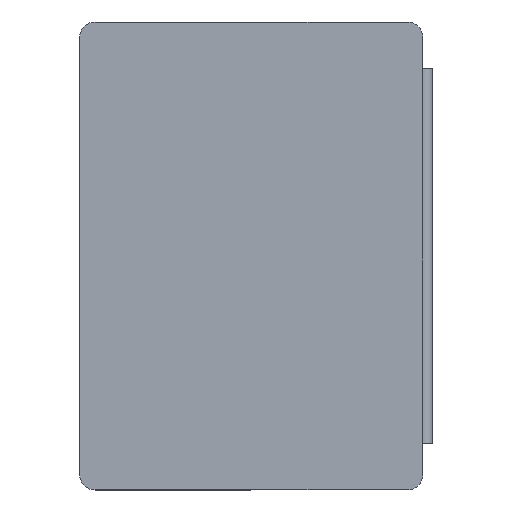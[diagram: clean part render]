
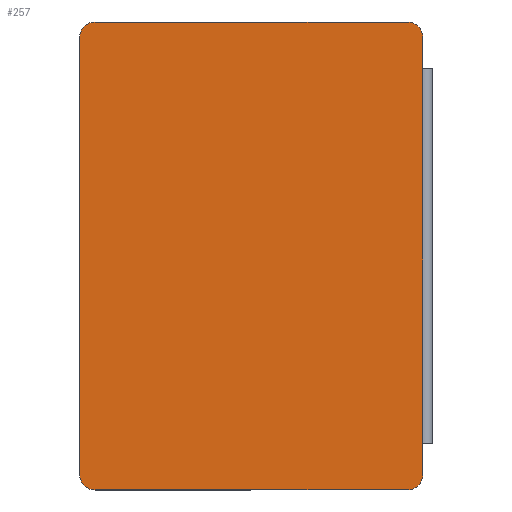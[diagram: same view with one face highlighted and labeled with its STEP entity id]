
A CAD part, top view. The second image highlights one B-rep face of the part: STEP entity #257.
In plain terms, the highlighted planar face has unit normal (0, 0, 1).
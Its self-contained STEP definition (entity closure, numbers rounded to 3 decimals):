
#24 = VECTOR ( 'NONE', #495, 1000. ) ;
#53 = CIRCLE ( 'NONE', #703, 5. ) ;
#54 = VERTEX_POINT ( 'NONE', #1642 ) ;
#94 = AXIS2_PLACEMENT_3D ( 'NONE', #881, #866, #1126 ) ;
#129 = CARTESIAN_POINT ( 'NONE',  ( 0., 0., 118.5 ) ) ;
#134 = ORIENTED_EDGE ( 'NONE', *, *, #183, .T. ) ;
#167 = VERTEX_POINT ( 'NONE', #318 ) ;
#183 = EDGE_CURVE ( 'NONE', #1404, #1384, #432, .T. ) ;
#222 = VECTOR ( 'NONE', #1247, 1000. ) ;
#257 = ADVANCED_FACE ( 'NONE', ( #1521 ), #1254, .F. ) ;
#261 = LINE ( 'NONE', #1369, #222 ) ;
#272 = CARTESIAN_POINT ( 'NONE',  ( 110., 130., 118.5 ) ) ;
#290 = DIRECTION ( 'NONE',  ( -1., 0., 0. ) ) ;
#293 = EDGE_CURVE ( 'NONE', #670, #603, #261, .T. ) ;
#307 = ORIENTED_EDGE ( 'NONE', *, *, #1177, .T. ) ;
#317 = ORIENTED_EDGE ( 'NONE', *, *, #293, .F. ) ;
#318 = CARTESIAN_POINT ( 'NONE',  ( 110., 120., 118.5 ) ) ;
#415 = CARTESIAN_POINT ( 'NONE',  ( 105., -15., 118.5 ) ) ;
#421 = AXIS2_PLACEMENT_3D ( 'NONE', #1618, #496, #888 ) ;
#432 = LINE ( 'NONE', #1638, #24 ) ;
#446 = VERTEX_POINT ( 'NONE', #415 ) ;
#461 = ORIENTED_EDGE ( 'NONE', *, *, #1489, .T. ) ;
#479 = ORIENTED_EDGE ( 'NONE', *, *, #815, .T. ) ;
#495 = DIRECTION ( 'NONE',  ( 0., -1., 0. ) ) ;
#496 = DIRECTION ( 'NONE',  ( 0., 0., 1. ) ) ;
#537 = AXIS2_PLACEMENT_3D ( 'NONE', #129, #749, #652 ) ;
#545 = DIRECTION ( 'NONE',  ( -1., 0., 0. ) ) ;
#551 = VECTOR ( 'NONE', #631, 1000. ) ;
#568 = ORIENTED_EDGE ( 'NONE', *, *, #1639, .T. ) ;
#593 = EDGE_CURVE ( 'NONE', #1634, #167, #715, .T. ) ;
#603 = VERTEX_POINT ( 'NONE', #1245 ) ;
#631 = DIRECTION ( 'NONE',  ( 1., 0., 0. ) ) ;
#650 = VECTOR ( 'NONE', #1446, 1000. ) ;
#652 = DIRECTION ( 'NONE',  ( -1., 0., 0. ) ) ;
#660 = ORIENTED_EDGE ( 'NONE', *, *, #1362, .T. ) ;
#668 = DIRECTION ( 'NONE',  ( 0., 0., 1. ) ) ;
#670 = VERTEX_POINT ( 'NONE', #1520 ) ;
#703 = AXIS2_PLACEMENT_3D ( 'NONE', #1022, #1528, #545 ) ;
#710 = ORIENTED_EDGE ( 'NONE', *, *, #1468, .T. ) ;
#715 = LINE ( 'NONE', #1108, #650 ) ;
#749 = DIRECTION ( 'NONE',  ( 0., 0., -1. ) ) ;
#781 = LINE ( 'NONE', #788, #892 ) ;
#787 = ORIENTED_EDGE ( 'NONE', *, *, #593, .F. ) ;
#788 = CARTESIAN_POINT ( 'NONE',  ( 110., 120., 118.5 ) ) ;
#815 = EDGE_CURVE ( 'NONE', #1384, #1594, #53, .T. ) ;
#853 = CARTESIAN_POINT ( 'NONE',  ( 105., 135., 118.5 ) ) ;
#866 = DIRECTION ( 'NONE',  ( 0., 0., 1. ) ) ;
#881 = CARTESIAN_POINT ( 'NONE',  ( 5., 130., 118.5 ) ) ;
#888 = DIRECTION ( 'NONE',  ( -1., 0., 0. ) ) ;
#892 = VECTOR ( 'NONE', #1300, 1000. ) ;
#959 = CARTESIAN_POINT ( 'NONE',  ( 0., 135., 118.5 ) ) ;
#1006 = LINE ( 'NONE', #1501, #551 ) ;
#1022 = CARTESIAN_POINT ( 'NONE',  ( 5., -10., 118.5 ) ) ;
#1023 = CIRCLE ( 'NONE', #421, 5. ) ;
#1086 = DIRECTION ( 'NONE',  ( -1., 0., 0. ) ) ;
#1105 = AXIS2_PLACEMENT_3D ( 'NONE', #1411, #668, #290 ) ;
#1108 = CARTESIAN_POINT ( 'NONE',  ( 110., -15., 118.5 ) ) ;
#1126 = DIRECTION ( 'NONE',  ( -1., 0., 0. ) ) ;
#1134 = EDGE_LOOP ( 'NONE', ( #710, #568, #317, #307, #787, #1616, #660, #461, #134, #479 ) ) ;
#1177 = EDGE_CURVE ( 'NONE', #670, #167, #781, .T. ) ;
#1218 = CARTESIAN_POINT ( 'NONE',  ( 0., -10., 118.5 ) ) ;
#1245 = CARTESIAN_POINT ( 'NONE',  ( 110., -10., 118.5 ) ) ;
#1247 = DIRECTION ( 'NONE',  ( 0., -1., 0. ) ) ;
#1254 = PLANE ( 'NONE',  #537 ) ;
#1300 = DIRECTION ( 'NONE',  ( 0., 1., 0. ) ) ;
#1309 = VECTOR ( 'NONE', #1086, 1000. ) ;
#1317 = CARTESIAN_POINT ( 'NONE',  ( 0., 130., 118.5 ) ) ;
#1362 = EDGE_CURVE ( 'NONE', #1460, #54, #1434, .T. ) ;
#1369 = CARTESIAN_POINT ( 'NONE',  ( 110., -15., 118.5 ) ) ;
#1384 = VERTEX_POINT ( 'NONE', #1218 ) ;
#1404 = VERTEX_POINT ( 'NONE', #1317 ) ;
#1411 = CARTESIAN_POINT ( 'NONE',  ( 105., -10., 118.5 ) ) ;
#1417 = CIRCLE ( 'NONE', #1105, 5. ) ;
#1434 = LINE ( 'NONE', #959, #1309 ) ;
#1446 = DIRECTION ( 'NONE',  ( 0., -1., 0. ) ) ;
#1460 = VERTEX_POINT ( 'NONE', #853 ) ;
#1468 = EDGE_CURVE ( 'NONE', #1594, #446, #1006, .T. ) ;
#1489 = EDGE_CURVE ( 'NONE', #54, #1404, #1554, .T. ) ;
#1501 = CARTESIAN_POINT ( 'NONE',  ( 0., -15., 118.5 ) ) ;
#1520 = CARTESIAN_POINT ( 'NONE',  ( 110., 0., 118.5 ) ) ;
#1521 = FACE_OUTER_BOUND ( 'NONE', #1134, .T. ) ;
#1528 = DIRECTION ( 'NONE',  ( 0., 0., 1. ) ) ;
#1541 = CARTESIAN_POINT ( 'NONE',  ( 5., -15., 118.5 ) ) ;
#1554 = CIRCLE ( 'NONE', #94, 5. ) ;
#1560 = EDGE_CURVE ( 'NONE', #1634, #1460, #1023, .T. ) ;
#1594 = VERTEX_POINT ( 'NONE', #1541 ) ;
#1616 = ORIENTED_EDGE ( 'NONE', *, *, #1560, .T. ) ;
#1618 = CARTESIAN_POINT ( 'NONE',  ( 105., 130., 118.5 ) ) ;
#1634 = VERTEX_POINT ( 'NONE', #272 ) ;
#1638 = CARTESIAN_POINT ( 'NONE',  ( 0., 0., 118.5 ) ) ;
#1639 = EDGE_CURVE ( 'NONE', #446, #603, #1417, .T. ) ;
#1642 = CARTESIAN_POINT ( 'NONE',  ( 5., 135., 118.5 ) ) ;
